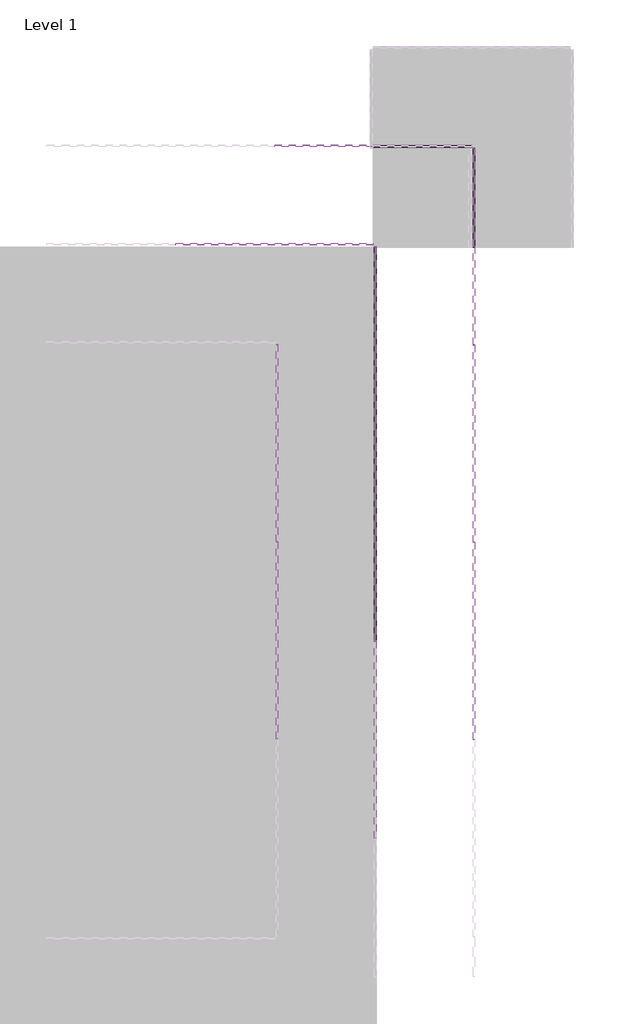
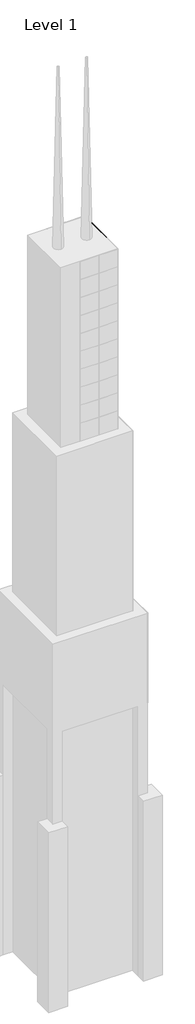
# One storey, part 14 of 15: 138 plates.
"""IFC4 building model written with IfcOpenShell, lengths in millimetres."""

from ifc_helpers import new_model, si_unit, origin, place, context, project, spatial, transform, mapped, element, save
from components import system_panel_glazed_9c75bc08, system_panel_glazed_0a0842ec, system_panel_glazed_aa64d645, system_panel_glazed_b248394d

model = new_model("IFC4")

# Units and contexts
model_context = context("Model", 3, world=origin())
ifc_project = project(units=[si_unit("LENGTHUNIT", "METRE", prefix="MILLI")], contexts=[model_context])

# Site, building, storey
site = spatial("IfcSite", under=ifc_project)
building = spatial("IfcBuilding", under=site)
storey = spatial("IfcBuildingStorey", under=building, Name="Level 1", Elevation=0.0)

# Plates
placement = place(None, origin())
system_panel_glazed_shape = system_panel_glazed_9c75bc08(model_context)
element("IfcPlate", 1, ObjectType="System Panel : Glazed", at=placement, inside=storey, context=model_context, shape_type="MappedRepresentation", body=[
    mapped(system_panel_glazed_shape, transform((51834.2903978, 9113.0904402, 0.0), x_axis=(0.0, 1.0, 0.0), y_axis=(-1.0, 0.0, 0.0), z_axis=(0.0, 0.0, 1.0))),
])
element("IfcPlate", 2, ObjectType="System Panel : Glazed", at=placement, inside=storey, context=model_context, shape_type="MappedRepresentation", body=[
    mapped(system_panel_glazed_shape, transform((51834.2903978, 9113.0904402, 3048.0), x_axis=(0.0, 1.0, 0.0), y_axis=(-1.0, 0.0, 0.0), z_axis=(0.0, 0.0, 1.0))),
])
element("IfcPlate", 3, ObjectType="System Panel : Glazed", at=placement, inside=storey, context=model_context, shape_type="MappedRepresentation", body=[
    mapped(system_panel_glazed_shape, transform((51834.2903978, 9113.0904402, 6096.0), x_axis=(0.0, 1.0, 0.0), y_axis=(-1.0, 0.0, 0.0), z_axis=(0.0, 0.0, 1.0))),
])
element("IfcPlate", 4, ObjectType="System Panel : Glazed", at=placement, inside=storey, context=model_context, shape_type="MappedRepresentation", body=[
    mapped(system_panel_glazed_shape, transform((51834.2903978, 9113.0904402, 9144.0), x_axis=(0.0, 1.0, 0.0), y_axis=(-1.0, 0.0, 0.0), z_axis=(0.0, 0.0, 1.0))),
])
element("IfcPlate", 5, ObjectType="System Panel : Glazed", at=placement, inside=storey, context=model_context, shape_type="MappedRepresentation", body=[
    mapped(system_panel_glazed_shape, transform((51834.2903978, 9113.0904402, 12192.0), x_axis=(0.0, 1.0, 0.0), y_axis=(-1.0, 0.0, 0.0), z_axis=(0.0, 0.0, 1.0))),
])
element("IfcPlate", 6, ObjectType="System Panel : Glazed", at=placement, inside=storey, context=model_context, shape_type="MappedRepresentation", body=[
    mapped(system_panel_glazed_shape, transform((51834.2903978, 9113.0904402, 15240.0), x_axis=(0.0, 1.0, 0.0), y_axis=(-1.0, 0.0, 0.0), z_axis=(0.0, 0.0, 1.0))),
])
element("IfcPlate", 7, ObjectType="System Panel : Glazed", at=placement, inside=storey, context=model_context, shape_type="MappedRepresentation", body=[
    mapped(system_panel_glazed_shape, transform((51834.2903978, 9113.0904402, 18288.0), x_axis=(0.0, 1.0, 0.0), y_axis=(-1.0, 0.0, 0.0), z_axis=(0.0, 0.0, 1.0))),
])
element("IfcPlate", 8, ObjectType="System Panel : Glazed", at=placement, inside=storey, context=model_context, shape_type="MappedRepresentation", body=[
    mapped(system_panel_glazed_shape, transform((51834.2903978, 9113.0904402, 21336.0), x_axis=(0.0, 1.0, 0.0), y_axis=(-1.0, 0.0, 0.0), z_axis=(0.0, 0.0, 1.0))),
])
element("IfcPlate", 9, ObjectType="System Panel : Glazed", at=placement, inside=storey, context=model_context, shape_type="MappedRepresentation", body=[
    mapped(system_panel_glazed_shape, transform((51834.2903978, 9113.0904402, 24384.0), x_axis=(0.0, 1.0, 0.0), y_axis=(-1.0, 0.0, 0.0), z_axis=(0.0, 0.0, 1.0))),
])
element("IfcPlate", 10, ObjectType="System Panel : Glazed", at=placement, inside=storey, context=model_context, shape_type="MappedRepresentation", body=[
    mapped(system_panel_glazed_shape, transform((51834.2903978, 9113.0904402, 27432.0), x_axis=(0.0, 1.0, 0.0), y_axis=(-1.0, 0.0, 0.0), z_axis=(0.0, 0.0, 1.0))),
])
element("IfcPlate", 11, ObjectType="System Panel : Glazed", at=placement, inside=storey, context=model_context, shape_type="MappedRepresentation", body=[
    mapped(system_panel_glazed_shape, transform((51834.2903978, 9113.0904402, 30480.0), x_axis=(0.0, 1.0, 0.0), y_axis=(-1.0, 0.0, 0.0), z_axis=(0.0, 0.0, 1.0))),
])
element("IfcPlate", 12, ObjectType="System Panel : Glazed", at=placement, inside=storey, context=model_context, shape_type="MappedRepresentation", body=[
    mapped(system_panel_glazed_shape, transform((51834.2903978, 9113.0904402, 33528.0), x_axis=(0.0, 1.0, 0.0), y_axis=(-1.0, 0.0, 0.0), z_axis=(0.0, 0.0, 1.0))),
])
element("IfcPlate", 13, ObjectType="System Panel : Glazed", at=placement, inside=storey, context=model_context, shape_type="MappedRepresentation", body=[
    mapped(system_panel_glazed_shape, transform((51834.2903978, 9113.0904402, 36576.0), x_axis=(0.0, 1.0, 0.0), y_axis=(-1.0, 0.0, 0.0), z_axis=(0.0, 0.0, 1.0))),
])
element("IfcPlate", 14, ObjectType="System Panel : Glazed", at=placement, inside=storey, context=model_context, shape_type="MappedRepresentation", body=[
    mapped(system_panel_glazed_shape, transform((51834.2903978, 9113.0904402, 39624.0), x_axis=(0.0, 1.0, 0.0), y_axis=(-1.0, 0.0, 0.0), z_axis=(0.0, 0.0, 1.0))),
])
element("IfcPlate", 15, ObjectType="System Panel : Glazed", at=placement, inside=storey, context=model_context, shape_type="MappedRepresentation", body=[
    mapped(system_panel_glazed_shape, transform((51834.2903978, 9113.0904402, 42672.0), x_axis=(0.0, 1.0, 0.0), y_axis=(-1.0, 0.0, 0.0), z_axis=(0.0, 0.0, 1.0))),
])
element("IfcPlate", 16, ObjectType="System Panel : Glazed", at=placement, inside=storey, context=model_context, shape_type="MappedRepresentation", body=[
    mapped(system_panel_glazed_shape, transform((51072.2903978, 9875.0904402, 0.0), x_axis=(-1.0, 0.0, 0.0), y_axis=(0.0, -1.0, 0.0), z_axis=(0.0, 0.0, 1.0))),
])
element("IfcPlate", 17, ObjectType="System Panel : Glazed", at=placement, inside=storey, context=model_context, shape_type="MappedRepresentation", body=[
    mapped(system_panel_glazed_shape, transform((51072.2903978, 9875.0904402, 3048.0), x_axis=(-1.0, 0.0, 0.0), y_axis=(0.0, -1.0, 0.0), z_axis=(0.0, 0.0, 1.0))),
])
element("IfcPlate", 18, ObjectType="System Panel : Glazed", at=placement, inside=storey, context=model_context, shape_type="MappedRepresentation", body=[
    mapped(system_panel_glazed_shape, transform((51072.2903978, 9875.0904402, 6096.0), x_axis=(-1.0, 0.0, 0.0), y_axis=(0.0, -1.0, 0.0), z_axis=(0.0, 0.0, 1.0))),
])
element("IfcPlate", 19, ObjectType="System Panel : Glazed", at=placement, inside=storey, context=model_context, shape_type="MappedRepresentation", body=[
    mapped(system_panel_glazed_shape, transform((51072.2903978, 9875.0904402, 9144.0), x_axis=(-1.0, 0.0, 0.0), y_axis=(0.0, -1.0, 0.0), z_axis=(0.0, 0.0, 1.0))),
])
element("IfcPlate", 20, ObjectType="System Panel : Glazed", at=placement, inside=storey, context=model_context, shape_type="MappedRepresentation", body=[
    mapped(system_panel_glazed_shape, transform((51072.2903978, 9875.0904402, 12192.0), x_axis=(-1.0, 0.0, 0.0), y_axis=(0.0, -1.0, 0.0), z_axis=(0.0, 0.0, 1.0))),
])
element("IfcPlate", 21, ObjectType="System Panel : Glazed", at=placement, inside=storey, context=model_context, shape_type="MappedRepresentation", body=[
    mapped(system_panel_glazed_shape, transform((51072.2903978, 9875.0904402, 15240.0), x_axis=(-1.0, 0.0, 0.0), y_axis=(0.0, -1.0, 0.0), z_axis=(0.0, 0.0, 1.0))),
])
element("IfcPlate", 22, ObjectType="System Panel : Glazed", at=placement, inside=storey, context=model_context, shape_type="MappedRepresentation", body=[
    mapped(system_panel_glazed_shape, transform((51072.2903978, 9875.0904402, 18288.0), x_axis=(-1.0, 0.0, 0.0), y_axis=(0.0, -1.0, 0.0), z_axis=(0.0, 0.0, 1.0))),
])
element("IfcPlate", 23, ObjectType="System Panel : Glazed", at=placement, inside=storey, context=model_context, shape_type="MappedRepresentation", body=[
    mapped(system_panel_glazed_shape, transform((51072.2903978, 9875.0904402, 21336.0), x_axis=(-1.0, 0.0, 0.0), y_axis=(0.0, -1.0, 0.0), z_axis=(0.0, 0.0, 1.0))),
])
element("IfcPlate", 24, ObjectType="System Panel : Glazed", at=placement, inside=storey, context=model_context, shape_type="MappedRepresentation", body=[
    mapped(system_panel_glazed_shape, transform((51072.2903978, 9875.0904402, 24384.0), x_axis=(-1.0, 0.0, 0.0), y_axis=(0.0, -1.0, 0.0), z_axis=(0.0, 0.0, 1.0))),
])
element("IfcPlate", 25, ObjectType="System Panel : Glazed", at=placement, inside=storey, context=model_context, shape_type="MappedRepresentation", body=[
    mapped(system_panel_glazed_shape, transform((51072.2903978, 9875.0904402, 27432.0), x_axis=(-1.0, 0.0, 0.0), y_axis=(0.0, -1.0, 0.0), z_axis=(0.0, 0.0, 1.0))),
])
element("IfcPlate", 26, ObjectType="System Panel : Glazed", at=placement, inside=storey, context=model_context, shape_type="MappedRepresentation", body=[
    mapped(system_panel_glazed_shape, transform((51072.2903978, 9875.0904402, 30480.0), x_axis=(-1.0, 0.0, 0.0), y_axis=(0.0, -1.0, 0.0), z_axis=(0.0, 0.0, 1.0))),
])
element("IfcPlate", 27, ObjectType="System Panel : Glazed", at=placement, inside=storey, context=model_context, shape_type="MappedRepresentation", body=[
    mapped(system_panel_glazed_shape, transform((51072.2903978, 9875.0904402, 33528.0), x_axis=(-1.0, 0.0, 0.0), y_axis=(0.0, -1.0, 0.0), z_axis=(0.0, 0.0, 1.0))),
])
system_panel_glazed_2_shape = system_panel_glazed_0a0842ec(model_context)
element("IfcPlate", 28, ObjectType="System Panel : Glazed", at=placement, inside=storey, context=model_context, shape_type="MappedRepresentation", body=[
    mapped(system_panel_glazed_2_shape, transform((51834.2903978, 8351.0904402, 45720.0), x_axis=(0.0, 1.0, 0.0), y_axis=(-1.0, 0.0, 0.0), z_axis=(0.0, 0.0, 1.0))),
])
element("IfcPlate", 29, ObjectType="System Panel : Glazed", at=placement, inside=storey, context=model_context, shape_type="MappedRepresentation", body=[
    mapped(system_panel_glazed_2_shape, transform((50310.2903978, 9875.0904402, 45720.0), x_axis=(-1.0, 0.0, 0.0), y_axis=(0.0, -1.0, 0.0), z_axis=(0.0, 0.0, 1.0))),
])
element("IfcPlate", 30, ObjectType="System Panel : Glazed", at=placement, inside=storey, context=model_context, shape_type="MappedRepresentation", body=[
    mapped(system_panel_glazed_2_shape, transform((50310.2903978, 9875.0904402, 45720.0), x_axis=(-1.0, 0.0, 0.0), y_axis=(0.0, -1.0, 0.0), z_axis=(0.0, 0.0, 1.0))),
])
element("IfcPlate", 31, ObjectType="System Panel : Glazed", at=placement, inside=storey, context=model_context, shape_type="MappedRepresentation", body=[
    mapped(system_panel_glazed_2_shape, transform((50310.2903978, 9875.0904402, 45720.0), x_axis=(-1.0, 0.0, 0.0), y_axis=(0.0, -1.0, 0.0), z_axis=(0.0, 0.0, 1.0))),
])
system_panel_glazed_3_shape = system_panel_glazed_aa64d645(model_context)
element("IfcPlate", 32, ObjectType="System Panel : Glazed", at=placement, inside=storey, context=model_context, shape_type="MappedRepresentation", body=[
    mapped(system_panel_glazed_3_shape, transform((51834.2903978, 2255.0904402, 45720.0), x_axis=(0.0, 1.0, 0.0), y_axis=(-1.0, 0.0, 0.0), z_axis=(0.0, 0.0, 1.0))),
])
element("IfcPlate", 33, ObjectType="System Panel : Glazed", at=placement, inside=storey, context=model_context, shape_type="MappedRepresentation", body=[
    mapped(system_panel_glazed_3_shape, transform((51834.2903978, 5303.0904402, 45720.0), x_axis=(0.0, 1.0, 0.0), y_axis=(-1.0, 0.0, 0.0), z_axis=(0.0, 0.0, 1.0))),
])
element("IfcPlate", 34, ObjectType="System Panel : Glazed", at=placement, inside=storey, context=model_context, shape_type="MappedRepresentation", body=[
    mapped(system_panel_glazed_3_shape, transform((51834.2903978, 2255.0904402, 48768.0), x_axis=(0.0, 1.0, 0.0), y_axis=(-1.0, 0.0, 0.0), z_axis=(0.0, 0.0, 1.0))),
])
element("IfcPlate", 35, ObjectType="System Panel : Glazed", at=placement, inside=storey, context=model_context, shape_type="MappedRepresentation", body=[
    mapped(system_panel_glazed_3_shape, transform((51834.2903978, 5303.0904402, 48768.0), x_axis=(0.0, 1.0, 0.0), y_axis=(-1.0, 0.0, 0.0), z_axis=(0.0, 0.0, 1.0))),
])
element("IfcPlate", 36, ObjectType="System Panel : Glazed", at=placement, inside=storey, context=model_context, shape_type="MappedRepresentation", body=[
    mapped(system_panel_glazed_3_shape, transform((51834.2903978, 8351.0904402, 48768.0), x_axis=(0.0, 1.0, 0.0), y_axis=(-1.0, 0.0, 0.0), z_axis=(0.0, 0.0, 1.0))),
])
element("IfcPlate", 37, ObjectType="System Panel : Glazed", at=placement, inside=storey, context=model_context, shape_type="MappedRepresentation", body=[
    mapped(system_panel_glazed_3_shape, transform((51834.2903978, 2255.0904402, 51816.0), x_axis=(0.0, 1.0, 0.0), y_axis=(-1.0, 0.0, 0.0), z_axis=(0.0, 0.0, 1.0))),
])
element("IfcPlate", 38, ObjectType="System Panel : Glazed", at=placement, inside=storey, context=model_context, shape_type="MappedRepresentation", body=[
    mapped(system_panel_glazed_3_shape, transform((51834.2903978, 5303.0904402, 51816.0), x_axis=(0.0, 1.0, 0.0), y_axis=(-1.0, 0.0, 0.0), z_axis=(0.0, 0.0, 1.0))),
])
element("IfcPlate", 39, ObjectType="System Panel : Glazed", at=placement, inside=storey, context=model_context, shape_type="MappedRepresentation", body=[
    mapped(system_panel_glazed_3_shape, transform((51834.2903978, 8351.0904402, 51816.0), x_axis=(0.0, 1.0, 0.0), y_axis=(-1.0, 0.0, 0.0), z_axis=(0.0, 0.0, 1.0))),
])
element("IfcPlate", 40, ObjectType="System Panel : Glazed", at=placement, inside=storey, context=model_context, shape_type="MappedRepresentation", body=[
    mapped(system_panel_glazed_3_shape, transform((51834.2903978, 2255.0904402, 54864.0), x_axis=(0.0, 1.0, 0.0), y_axis=(-1.0, 0.0, 0.0), z_axis=(0.0, 0.0, 1.0))),
])
element("IfcPlate", 41, ObjectType="System Panel : Glazed", at=placement, inside=storey, context=model_context, shape_type="MappedRepresentation", body=[
    mapped(system_panel_glazed_3_shape, transform((51834.2903978, 5303.0904402, 54864.0), x_axis=(0.0, 1.0, 0.0), y_axis=(-1.0, 0.0, 0.0), z_axis=(0.0, 0.0, 1.0))),
])
element("IfcPlate", 42, ObjectType="System Panel : Glazed", at=placement, inside=storey, context=model_context, shape_type="MappedRepresentation", body=[
    mapped(system_panel_glazed_3_shape, transform((51834.2903978, 8351.0904402, 54864.0), x_axis=(0.0, 1.0, 0.0), y_axis=(-1.0, 0.0, 0.0), z_axis=(0.0, 0.0, 1.0))),
])
element("IfcPlate", 43, ObjectType="System Panel : Glazed", at=placement, inside=storey, context=model_context, shape_type="MappedRepresentation", body=[
    mapped(system_panel_glazed_3_shape, transform((51834.2903978, 2255.0904402, 57912.0), x_axis=(0.0, 1.0, 0.0), y_axis=(-1.0, 0.0, 0.0), z_axis=(0.0, 0.0, 1.0))),
])
element("IfcPlate", 44, ObjectType="System Panel : Glazed", at=placement, inside=storey, context=model_context, shape_type="MappedRepresentation", body=[
    mapped(system_panel_glazed_3_shape, transform((51834.2903978, 5303.0904402, 57912.0), x_axis=(0.0, 1.0, 0.0), y_axis=(-1.0, 0.0, 0.0), z_axis=(0.0, 0.0, 1.0))),
])
element("IfcPlate", 45, ObjectType="System Panel : Glazed", at=placement, inside=storey, context=model_context, shape_type="MappedRepresentation", body=[
    mapped(system_panel_glazed_3_shape, transform((51834.2903978, 8351.0904402, 57912.0), x_axis=(0.0, 1.0, 0.0), y_axis=(-1.0, 0.0, 0.0), z_axis=(0.0, 0.0, 1.0))),
])
element("IfcPlate", 46, ObjectType="System Panel : Glazed", at=placement, inside=storey, context=model_context, shape_type="MappedRepresentation", body=[
    mapped(system_panel_glazed_3_shape, transform((50310.2903978, 9875.0904402, 48768.0), x_axis=(-1.0, 0.0, 0.0), y_axis=(0.0, -1.0, 0.0), z_axis=(0.0, 0.0, 1.0))),
])
element("IfcPlate", 47, ObjectType="System Panel : Glazed", at=placement, inside=storey, context=model_context, shape_type="MappedRepresentation", body=[
    mapped(system_panel_glazed_3_shape, transform((50310.2903978, 9875.0904402, 51816.0), x_axis=(-1.0, 0.0, 0.0), y_axis=(0.0, -1.0, 0.0), z_axis=(0.0, 0.0, 1.0))),
])
element("IfcPlate", 48, ObjectType="System Panel : Glazed", at=placement, inside=storey, context=model_context, shape_type="MappedRepresentation", body=[
    mapped(system_panel_glazed_3_shape, transform((50310.2903978, 9875.0904402, 54864.0), x_axis=(-1.0, 0.0, 0.0), y_axis=(0.0, -1.0, 0.0), z_axis=(0.0, 0.0, 1.0))),
])
element("IfcPlate", 49, ObjectType="System Panel : Glazed", at=placement, inside=storey, context=model_context, shape_type="MappedRepresentation", body=[
    mapped(system_panel_glazed_3_shape, transform((50310.2903978, 9875.0904402, 57912.0), x_axis=(-1.0, 0.0, 0.0), y_axis=(0.0, -1.0, 0.0), z_axis=(0.0, 0.0, 1.0))),
])
element("IfcPlate", 50, ObjectType="System Panel : Glazed", at=placement, inside=storey, context=model_context, shape_type="MappedRepresentation", body=[
    mapped(system_panel_glazed_3_shape, transform((50310.2903978, 3779.0904402, 60960.0), x_axis=(0.0, 1.0, 0.0), y_axis=(-1.0, 0.0, 0.0), z_axis=(0.0, 0.0, 1.0))),
])
element("IfcPlate", 51, ObjectType="System Panel : Glazed", at=placement, inside=storey, context=model_context, shape_type="MappedRepresentation", body=[
    mapped(system_panel_glazed_3_shape, transform((50310.2903978, 6827.0904402, 60960.0), x_axis=(0.0, 1.0, 0.0), y_axis=(-1.0, 0.0, 0.0), z_axis=(0.0, 0.0, 1.0))),
])
element("IfcPlate", 52, ObjectType="System Panel : Glazed", at=placement, inside=storey, context=model_context, shape_type="MappedRepresentation", body=[
    mapped(system_panel_glazed_3_shape, transform((50310.2903978, 3779.0904402, 64008.0), x_axis=(0.0, 1.0, 0.0), y_axis=(-1.0, 0.0, 0.0), z_axis=(0.0, 0.0, 1.0))),
])
element("IfcPlate", 53, ObjectType="System Panel : Glazed", at=placement, inside=storey, context=model_context, shape_type="MappedRepresentation", body=[
    mapped(system_panel_glazed_3_shape, transform((50310.2903978, 6827.0904402, 64008.0), x_axis=(0.0, 1.0, 0.0), y_axis=(-1.0, 0.0, 0.0), z_axis=(0.0, 0.0, 1.0))),
])
element("IfcPlate", 54, ObjectType="System Panel : Glazed", at=placement, inside=storey, context=model_context, shape_type="MappedRepresentation", body=[
    mapped(system_panel_glazed_3_shape, transform((50310.2903978, 3779.0904402, 67056.0), x_axis=(0.0, 1.0, 0.0), y_axis=(-1.0, 0.0, 0.0), z_axis=(0.0, 0.0, 1.0))),
])
element("IfcPlate", 55, ObjectType="System Panel : Glazed", at=placement, inside=storey, context=model_context, shape_type="MappedRepresentation", body=[
    mapped(system_panel_glazed_3_shape, transform((50310.2903978, 6827.0904402, 67056.0), x_axis=(0.0, 1.0, 0.0), y_axis=(-1.0, 0.0, 0.0), z_axis=(0.0, 0.0, 1.0))),
])
element("IfcPlate", 56, ObjectType="System Panel : Glazed", at=placement, inside=storey, context=model_context, shape_type="MappedRepresentation", body=[
    mapped(system_panel_glazed_3_shape, transform((50310.2903978, 3779.0904402, 70104.0), x_axis=(0.0, 1.0, 0.0), y_axis=(-1.0, 0.0, 0.0), z_axis=(0.0, 0.0, 1.0))),
])
element("IfcPlate", 57, ObjectType="System Panel : Glazed", at=placement, inside=storey, context=model_context, shape_type="MappedRepresentation", body=[
    mapped(system_panel_glazed_3_shape, transform((50310.2903978, 6827.0904402, 70104.0), x_axis=(0.0, 1.0, 0.0), y_axis=(-1.0, 0.0, 0.0), z_axis=(0.0, 0.0, 1.0))),
])
element("IfcPlate", 58, ObjectType="System Panel : Glazed", at=placement, inside=storey, context=model_context, shape_type="MappedRepresentation", body=[
    mapped(system_panel_glazed_3_shape, transform((50310.2903978, 3779.0904402, 73152.0), x_axis=(0.0, 1.0, 0.0), y_axis=(-1.0, 0.0, 0.0), z_axis=(0.0, 0.0, 1.0))),
])
element("IfcPlate", 59, ObjectType="System Panel : Glazed", at=placement, inside=storey, context=model_context, shape_type="MappedRepresentation", body=[
    mapped(system_panel_glazed_3_shape, transform((50310.2903978, 6827.0904402, 73152.0), x_axis=(0.0, 1.0, 0.0), y_axis=(-1.0, 0.0, 0.0), z_axis=(0.0, 0.0, 1.0))),
])
element("IfcPlate", 60, ObjectType="System Panel : Glazed", at=placement, inside=storey, context=model_context, shape_type="MappedRepresentation", body=[
    mapped(system_panel_glazed_3_shape, transform((50310.2903978, 3779.0904402, 76200.0), x_axis=(0.0, 1.0, 0.0), y_axis=(-1.0, 0.0, 0.0), z_axis=(0.0, 0.0, 1.0))),
])
element("IfcPlate", 61, ObjectType="System Panel : Glazed", at=placement, inside=storey, context=model_context, shape_type="MappedRepresentation", body=[
    mapped(system_panel_glazed_3_shape, transform((50310.2903978, 6827.0904402, 76200.0), x_axis=(0.0, 1.0, 0.0), y_axis=(-1.0, 0.0, 0.0), z_axis=(0.0, 0.0, 1.0))),
])
element("IfcPlate", 62, ObjectType="System Panel : Glazed", at=placement, inside=storey, context=model_context, shape_type="MappedRepresentation", body=[
    mapped(system_panel_glazed_3_shape, transform((50310.2903978, 3779.0904402, 79248.0), x_axis=(0.0, 1.0, 0.0), y_axis=(-1.0, 0.0, 0.0), z_axis=(0.0, 0.0, 1.0))),
])
element("IfcPlate", 63, ObjectType="System Panel : Glazed", at=placement, inside=storey, context=model_context, shape_type="MappedRepresentation", body=[
    mapped(system_panel_glazed_3_shape, transform((50310.2903978, 6827.0904402, 79248.0), x_axis=(0.0, 1.0, 0.0), y_axis=(-1.0, 0.0, 0.0), z_axis=(0.0, 0.0, 1.0))),
])
element("IfcPlate", 64, ObjectType="System Panel : Glazed", at=placement, inside=storey, context=model_context, shape_type="MappedRepresentation", body=[
    mapped(system_panel_glazed_3_shape, transform((50310.2903978, 3779.0904402, 82296.0), x_axis=(0.0, 1.0, 0.0), y_axis=(-1.0, 0.0, 0.0), z_axis=(0.0, 0.0, 1.0))),
])
element("IfcPlate", 65, ObjectType="System Panel : Glazed", at=placement, inside=storey, context=model_context, shape_type="MappedRepresentation", body=[
    mapped(system_panel_glazed_3_shape, transform((50310.2903978, 6827.0904402, 82296.0), x_axis=(0.0, 1.0, 0.0), y_axis=(-1.0, 0.0, 0.0), z_axis=(0.0, 0.0, 1.0))),
])
element("IfcPlate", 66, ObjectType="System Panel : Glazed", at=placement, inside=storey, context=model_context, shape_type="MappedRepresentation", body=[
    mapped(system_panel_glazed_3_shape, transform((50310.2903978, 3779.0904402, 85344.0), x_axis=(0.0, 1.0, 0.0), y_axis=(-1.0, 0.0, 0.0), z_axis=(0.0, 0.0, 1.0))),
])
element("IfcPlate", 67, ObjectType="System Panel : Glazed", at=placement, inside=storey, context=model_context, shape_type="MappedRepresentation", body=[
    mapped(system_panel_glazed_3_shape, transform((50310.2903978, 6827.0904402, 85344.0), x_axis=(0.0, 1.0, 0.0), y_axis=(-1.0, 0.0, 0.0), z_axis=(0.0, 0.0, 1.0))),
])
element("IfcPlate", 68, ObjectType="System Panel : Glazed", at=placement, inside=storey, context=model_context, shape_type="MappedRepresentation", body=[
    mapped(system_panel_glazed_3_shape, transform((50310.2903978, 3779.0904402, 88392.0), x_axis=(0.0, 1.0, 0.0), y_axis=(-1.0, 0.0, 0.0), z_axis=(0.0, 0.0, 1.0))),
])
element("IfcPlate", 69, ObjectType="System Panel : Glazed", at=placement, inside=storey, context=model_context, shape_type="MappedRepresentation", body=[
    mapped(system_panel_glazed_3_shape, transform((50310.2903978, 6827.0904402, 88392.0), x_axis=(0.0, 1.0, 0.0), y_axis=(-1.0, 0.0, 0.0), z_axis=(0.0, 0.0, 1.0))),
])
element("IfcPlate", 70, ObjectType="System Panel : Glazed", at=placement, inside=storey, context=model_context, shape_type="MappedRepresentation", body=[
    mapped(system_panel_glazed_3_shape, transform((48786.2903978, 8351.0904402, 60960.0), x_axis=(-1.0, 0.0, 0.0), y_axis=(0.0, -1.0, 0.0), z_axis=(0.0, 0.0, 1.0))),
])
element("IfcPlate", 71, ObjectType="System Panel : Glazed", at=placement, inside=storey, context=model_context, shape_type="MappedRepresentation", body=[
    mapped(system_panel_glazed_3_shape, transform((48786.2903978, 8351.0904402, 64008.0), x_axis=(-1.0, 0.0, 0.0), y_axis=(0.0, -1.0, 0.0), z_axis=(0.0, 0.0, 1.0))),
])
element("IfcPlate", 72, ObjectType="System Panel : Glazed", at=placement, inside=storey, context=model_context, shape_type="MappedRepresentation", body=[
    mapped(system_panel_glazed_3_shape, transform((48786.2903978, 8351.0904402, 67056.0), x_axis=(-1.0, 0.0, 0.0), y_axis=(0.0, -1.0, 0.0), z_axis=(0.0, 0.0, 1.0))),
])
element("IfcPlate", 73, ObjectType="System Panel : Glazed", at=placement, inside=storey, context=model_context, shape_type="MappedRepresentation", body=[
    mapped(system_panel_glazed_3_shape, transform((48786.2903978, 8351.0904402, 70104.0), x_axis=(-1.0, 0.0, 0.0), y_axis=(0.0, -1.0, 0.0), z_axis=(0.0, 0.0, 1.0))),
])
element("IfcPlate", 74, ObjectType="System Panel : Glazed", at=placement, inside=storey, context=model_context, shape_type="MappedRepresentation", body=[
    mapped(system_panel_glazed_3_shape, transform((48786.2903978, 8351.0904402, 73152.0), x_axis=(-1.0, 0.0, 0.0), y_axis=(0.0, -1.0, 0.0), z_axis=(0.0, 0.0, 1.0))),
])
element("IfcPlate", 75, ObjectType="System Panel : Glazed", at=placement, inside=storey, context=model_context, shape_type="MappedRepresentation", body=[
    mapped(system_panel_glazed_3_shape, transform((48786.2903978, 8351.0904402, 76200.0), x_axis=(-1.0, 0.0, 0.0), y_axis=(0.0, -1.0, 0.0), z_axis=(0.0, 0.0, 1.0))),
])
element("IfcPlate", 76, ObjectType="System Panel : Glazed", at=placement, inside=storey, context=model_context, shape_type="MappedRepresentation", body=[
    mapped(system_panel_glazed_3_shape, transform((48786.2903978, 8351.0904402, 79248.0), x_axis=(-1.0, 0.0, 0.0), y_axis=(0.0, -1.0, 0.0), z_axis=(0.0, 0.0, 1.0))),
])
element("IfcPlate", 77, ObjectType="System Panel : Glazed", at=placement, inside=storey, context=model_context, shape_type="MappedRepresentation", body=[
    mapped(system_panel_glazed_3_shape, transform((48786.2903978, 8351.0904402, 82296.0), x_axis=(-1.0, 0.0, 0.0), y_axis=(0.0, -1.0, 0.0), z_axis=(0.0, 0.0, 1.0))),
])
element("IfcPlate", 78, ObjectType="System Panel : Glazed", at=placement, inside=storey, context=model_context, shape_type="MappedRepresentation", body=[
    mapped(system_panel_glazed_3_shape, transform((48786.2903978, 8351.0904402, 85344.0), x_axis=(-1.0, 0.0, 0.0), y_axis=(0.0, -1.0, 0.0), z_axis=(0.0, 0.0, 1.0))),
])
element("IfcPlate", 79, ObjectType="System Panel : Glazed", at=placement, inside=storey, context=model_context, shape_type="MappedRepresentation", body=[
    mapped(system_panel_glazed_3_shape, transform((48786.2903978, 8351.0904402, 88392.0), x_axis=(-1.0, 0.0, 0.0), y_axis=(0.0, -1.0, 0.0), z_axis=(0.0, 0.0, 1.0))),
])
element("IfcPlate", 80, ObjectType="System Panel : Glazed", at=placement, inside=storey, context=model_context, shape_type="MappedRepresentation", body=[
    mapped(system_panel_glazed_3_shape, transform((48791.8576677, 2255.0904402, 91440.0), x_axis=(0.0, 1.0, 0.0), y_axis=(-1.0, 0.0, 0.0), z_axis=(0.0, 0.0, 1.0))),
])
element("IfcPlate", 81, ObjectType="System Panel : Glazed", at=placement, inside=storey, context=model_context, shape_type="MappedRepresentation", body=[
    mapped(system_panel_glazed_3_shape, transform((48791.8576677, 5303.0904402, 91440.0), x_axis=(0.0, 1.0, 0.0), y_axis=(-1.0, 0.0, 0.0), z_axis=(0.0, 0.0, 1.0))),
])
element("IfcPlate", 82, ObjectType="System Panel : Glazed", at=placement, inside=storey, context=model_context, shape_type="MappedRepresentation", body=[
    mapped(system_panel_glazed_3_shape, transform((48791.8576677, 2255.0904402, 94488.0), x_axis=(0.0, 1.0, 0.0), y_axis=(-1.0, 0.0, 0.0), z_axis=(0.0, 0.0, 1.0))),
])
element("IfcPlate", 83, ObjectType="System Panel : Glazed", at=placement, inside=storey, context=model_context, shape_type="MappedRepresentation", body=[
    mapped(system_panel_glazed_3_shape, transform((48791.8576677, 5303.0904402, 94488.0), x_axis=(0.0, 1.0, 0.0), y_axis=(-1.0, 0.0, 0.0), z_axis=(0.0, 0.0, 1.0))),
])
element("IfcPlate", 84, ObjectType="System Panel : Glazed", at=placement, inside=storey, context=model_context, shape_type="MappedRepresentation", body=[
    mapped(system_panel_glazed_3_shape, transform((48791.8576677, 2255.0904402, 97536.0), x_axis=(0.0, 1.0, 0.0), y_axis=(-1.0, 0.0, 0.0), z_axis=(0.0, 0.0, 1.0))),
])
element("IfcPlate", 85, ObjectType="System Panel : Glazed", at=placement, inside=storey, context=model_context, shape_type="MappedRepresentation", body=[
    mapped(system_panel_glazed_3_shape, transform((48791.8576677, 5303.0904402, 97536.0), x_axis=(0.0, 1.0, 0.0), y_axis=(-1.0, 0.0, 0.0), z_axis=(0.0, 0.0, 1.0))),
])
element("IfcPlate", 86, ObjectType="System Panel : Glazed", at=placement, inside=storey, context=model_context, shape_type="MappedRepresentation", body=[
    mapped(system_panel_glazed_3_shape, transform((48791.8576677, 2255.0904402, 100584.0), x_axis=(0.0, 1.0, 0.0), y_axis=(-1.0, 0.0, 0.0), z_axis=(0.0, 0.0, 1.0))),
])
element("IfcPlate", 87, ObjectType="System Panel : Glazed", at=placement, inside=storey, context=model_context, shape_type="MappedRepresentation", body=[
    mapped(system_panel_glazed_3_shape, transform((48791.8576677, 5303.0904402, 100584.0), x_axis=(0.0, 1.0, 0.0), y_axis=(-1.0, 0.0, 0.0), z_axis=(0.0, 0.0, 1.0))),
])
element("IfcPlate", 88, ObjectType="System Panel : Glazed", at=placement, inside=storey, context=model_context, shape_type="MappedRepresentation", body=[
    mapped(system_panel_glazed_3_shape, transform((48791.8576677, 2255.0904402, 103632.0), x_axis=(0.0, 1.0, 0.0), y_axis=(-1.0, 0.0, 0.0), z_axis=(0.0, 0.0, 1.0))),
])
element("IfcPlate", 89, ObjectType="System Panel : Glazed", at=placement, inside=storey, context=model_context, shape_type="MappedRepresentation", body=[
    mapped(system_panel_glazed_3_shape, transform((48791.8576677, 5303.0904402, 103632.0), x_axis=(0.0, 1.0, 0.0), y_axis=(-1.0, 0.0, 0.0), z_axis=(0.0, 0.0, 1.0))),
])
element("IfcPlate", 90, ObjectType="System Panel : Glazed", at=placement, inside=storey, context=model_context, shape_type="MappedRepresentation", body=[
    mapped(system_panel_glazed_3_shape, transform((48791.8576677, 2255.0904402, 106680.0), x_axis=(0.0, 1.0, 0.0), y_axis=(-1.0, 0.0, 0.0), z_axis=(0.0, 0.0, 1.0))),
])
element("IfcPlate", 91, ObjectType="System Panel : Glazed", at=placement, inside=storey, context=model_context, shape_type="MappedRepresentation", body=[
    mapped(system_panel_glazed_3_shape, transform((48791.8576677, 5303.0904402, 106680.0), x_axis=(0.0, 1.0, 0.0), y_axis=(-1.0, 0.0, 0.0), z_axis=(0.0, 0.0, 1.0))),
])
element("IfcPlate", 92, ObjectType="System Panel : Glazed", at=placement, inside=storey, context=model_context, shape_type="MappedRepresentation", body=[
    mapped(system_panel_glazed_3_shape, transform((48791.8576677, 2255.0904402, 109728.0), x_axis=(0.0, 1.0, 0.0), y_axis=(-1.0, 0.0, 0.0), z_axis=(0.0, 0.0, 1.0))),
])
element("IfcPlate", 93, ObjectType="System Panel : Glazed", at=placement, inside=storey, context=model_context, shape_type="MappedRepresentation", body=[
    mapped(system_panel_glazed_3_shape, transform((48791.8576677, 5303.0904402, 109728.0), x_axis=(0.0, 1.0, 0.0), y_axis=(-1.0, 0.0, 0.0), z_axis=(0.0, 0.0, 1.0))),
])
element("IfcPlate", 94, ObjectType="System Panel : Glazed", at=placement, inside=storey, context=model_context, shape_type="MappedRepresentation", body=[
    mapped(system_panel_glazed_3_shape, transform((48791.8576677, 2255.0904402, 112776.0), x_axis=(0.0, 1.0, 0.0), y_axis=(-1.0, 0.0, 0.0), z_axis=(0.0, 0.0, 1.0))),
])
element("IfcPlate", 95, ObjectType="System Panel : Glazed", at=placement, inside=storey, context=model_context, shape_type="MappedRepresentation", body=[
    mapped(system_panel_glazed_3_shape, transform((48791.8576677, 5303.0904402, 112776.0), x_axis=(0.0, 1.0, 0.0), y_axis=(-1.0, 0.0, 0.0), z_axis=(0.0, 0.0, 1.0))),
])
element("IfcPlate", 96, ObjectType="System Panel : Glazed", at=placement, inside=storey, context=model_context, shape_type="MappedRepresentation", body=[
    mapped(system_panel_glazed_3_shape, transform((48791.8576677, 2255.0904402, 115824.0), x_axis=(0.0, 1.0, 0.0), y_axis=(-1.0, 0.0, 0.0), z_axis=(0.0, 0.0, 1.0))),
])
element("IfcPlate", 97, ObjectType="System Panel : Glazed", at=placement, inside=storey, context=model_context, shape_type="MappedRepresentation", body=[
    mapped(system_panel_glazed_3_shape, transform((48791.8576677, 5303.0904402, 115824.0), x_axis=(0.0, 1.0, 0.0), y_axis=(-1.0, 0.0, 0.0), z_axis=(0.0, 0.0, 1.0))),
])
element("IfcPlate", 98, ObjectType="System Panel : Glazed", at=placement, inside=storey, context=model_context, shape_type="MappedRepresentation", body=[
    mapped(system_panel_glazed_3_shape, transform((48791.8576677, 2255.0904402, 118872.0), x_axis=(0.0, 1.0, 0.0), y_axis=(-1.0, 0.0, 0.0), z_axis=(0.0, 0.0, 1.0))),
])
element("IfcPlate", 99, ObjectType="System Panel : Glazed", at=placement, inside=storey, context=model_context, shape_type="MappedRepresentation", body=[
    mapped(system_panel_glazed_3_shape, transform((48791.8576677, 5303.0904402, 118872.0), x_axis=(0.0, 1.0, 0.0), y_axis=(-1.0, 0.0, 0.0), z_axis=(0.0, 0.0, 1.0))),
])
element("IfcPlate", 100, ObjectType="System Panel : Glazed", at=placement, inside=storey, context=model_context, shape_type="MappedRepresentation", body=[
    mapped(system_panel_glazed_3_shape, transform((50310.2903978, 9875.0904402, 48768.0), x_axis=(-1.0, 0.0, 0.0), y_axis=(0.0, -1.0, 0.0), z_axis=(0.0, 0.0, 1.0))),
])
element("IfcPlate", 101, ObjectType="System Panel : Glazed", at=placement, inside=storey, context=model_context, shape_type="MappedRepresentation", body=[
    mapped(system_panel_glazed_3_shape, transform((50310.2903978, 9875.0904402, 51816.0), x_axis=(-1.0, 0.0, 0.0), y_axis=(0.0, -1.0, 0.0), z_axis=(0.0, 0.0, 1.0))),
])
element("IfcPlate", 102, ObjectType="System Panel : Glazed", at=placement, inside=storey, context=model_context, shape_type="MappedRepresentation", body=[
    mapped(system_panel_glazed_3_shape, transform((50310.2903978, 9875.0904402, 54864.0), x_axis=(-1.0, 0.0, 0.0), y_axis=(0.0, -1.0, 0.0), z_axis=(0.0, 0.0, 1.0))),
])
element("IfcPlate", 103, ObjectType="System Panel : Glazed", at=placement, inside=storey, context=model_context, shape_type="MappedRepresentation", body=[
    mapped(system_panel_glazed_3_shape, transform((50310.2903978, 9875.0904402, 57912.0), x_axis=(-1.0, 0.0, 0.0), y_axis=(0.0, -1.0, 0.0), z_axis=(0.0, 0.0, 1.0))),
])
element("IfcPlate", 104, ObjectType="System Panel : Glazed", at=placement, inside=storey, context=model_context, shape_type="MappedRepresentation", body=[
    mapped(system_panel_glazed_3_shape, transform((50310.2903978, 9875.0904402, 48768.0), x_axis=(-1.0, 0.0, 0.0), y_axis=(0.0, -1.0, 0.0), z_axis=(0.0, 0.0, 1.0))),
])
element("IfcPlate", 105, ObjectType="System Panel : Glazed", at=placement, inside=storey, context=model_context, shape_type="MappedRepresentation", body=[
    mapped(system_panel_glazed_3_shape, transform((50310.2903978, 9875.0904402, 51816.0), x_axis=(-1.0, 0.0, 0.0), y_axis=(0.0, -1.0, 0.0), z_axis=(0.0, 0.0, 1.0))),
])
element("IfcPlate", 106, ObjectType="System Panel : Glazed", at=placement, inside=storey, context=model_context, shape_type="MappedRepresentation", body=[
    mapped(system_panel_glazed_3_shape, transform((50310.2903978, 9875.0904402, 54864.0), x_axis=(-1.0, 0.0, 0.0), y_axis=(0.0, -1.0, 0.0), z_axis=(0.0, 0.0, 1.0))),
])
element("IfcPlate", 107, ObjectType="System Panel : Glazed", at=placement, inside=storey, context=model_context, shape_type="MappedRepresentation", body=[
    mapped(system_panel_glazed_3_shape, transform((50310.2903978, 9875.0904402, 57912.0), x_axis=(-1.0, 0.0, 0.0), y_axis=(0.0, -1.0, 0.0), z_axis=(0.0, 0.0, 1.0))),
])
system_panel_glazed_4_shape = system_panel_glazed_b248394d(model_context)
element("IfcPlate", 108, ObjectType="System Panel : Glazed", at=placement, inside=storey, context=model_context, shape_type="MappedRepresentation", body=[
    mapped(system_panel_glazed_4_shape, transform((50310.2903978, 6827.0904402, 0.0), x_axis=(0.0, -1.0, 0.0), y_axis=(1.0, 0.0, 0.0), z_axis=(0.0, 0.0, 1.0))),
])
element("IfcPlate", 109, ObjectType="System Panel : Glazed", at=placement, inside=storey, context=model_context, shape_type="MappedRepresentation", body=[
    mapped(system_panel_glazed_4_shape, transform((50310.2903978, 3779.0904402, 0.0), x_axis=(0.0, -1.0, 0.0), y_axis=(1.0, 0.0, 0.0), z_axis=(0.0, 0.0, 1.0))),
])
element("IfcPlate", 110, ObjectType="System Panel : Glazed", at=placement, inside=storey, context=model_context, shape_type="MappedRepresentation", body=[
    mapped(system_panel_glazed_4_shape, transform((50310.2903978, 6827.0904402, 3048.0), x_axis=(0.0, -1.0, 0.0), y_axis=(1.0, 0.0, 0.0), z_axis=(0.0, 0.0, 1.0))),
])
element("IfcPlate", 111, ObjectType="System Panel : Glazed", at=placement, inside=storey, context=model_context, shape_type="MappedRepresentation", body=[
    mapped(system_panel_glazed_4_shape, transform((50310.2903978, 3779.0904402, 3048.0), x_axis=(0.0, -1.0, 0.0), y_axis=(1.0, 0.0, 0.0), z_axis=(0.0, 0.0, 1.0))),
])
element("IfcPlate", 112, ObjectType="System Panel : Glazed", at=placement, inside=storey, context=model_context, shape_type="MappedRepresentation", body=[
    mapped(system_panel_glazed_4_shape, transform((50310.2903978, 6827.0904402, 6096.0), x_axis=(0.0, -1.0, 0.0), y_axis=(1.0, 0.0, 0.0), z_axis=(0.0, 0.0, 1.0))),
])
element("IfcPlate", 113, ObjectType="System Panel : Glazed", at=placement, inside=storey, context=model_context, shape_type="MappedRepresentation", body=[
    mapped(system_panel_glazed_4_shape, transform((50310.2903978, 3779.0904402, 6096.0), x_axis=(0.0, -1.0, 0.0), y_axis=(1.0, 0.0, 0.0), z_axis=(0.0, 0.0, 1.0))),
])
element("IfcPlate", 114, ObjectType="System Panel : Glazed", at=placement, inside=storey, context=model_context, shape_type="MappedRepresentation", body=[
    mapped(system_panel_glazed_4_shape, transform((50310.2903978, 6827.0904402, 9144.0), x_axis=(0.0, -1.0, 0.0), y_axis=(1.0, 0.0, 0.0), z_axis=(0.0, 0.0, 1.0))),
])
element("IfcPlate", 115, ObjectType="System Panel : Glazed", at=placement, inside=storey, context=model_context, shape_type="MappedRepresentation", body=[
    mapped(system_panel_glazed_4_shape, transform((50310.2903978, 3779.0904402, 9144.0), x_axis=(0.0, -1.0, 0.0), y_axis=(1.0, 0.0, 0.0), z_axis=(0.0, 0.0, 1.0))),
])
element("IfcPlate", 116, ObjectType="System Panel : Glazed", at=placement, inside=storey, context=model_context, shape_type="MappedRepresentation", body=[
    mapped(system_panel_glazed_4_shape, transform((50310.2903978, 6827.0904402, 12192.0), x_axis=(0.0, -1.0, 0.0), y_axis=(1.0, 0.0, 0.0), z_axis=(0.0, 0.0, 1.0))),
])
element("IfcPlate", 117, ObjectType="System Panel : Glazed", at=placement, inside=storey, context=model_context, shape_type="MappedRepresentation", body=[
    mapped(system_panel_glazed_4_shape, transform((50310.2903978, 3779.0904402, 12192.0), x_axis=(0.0, -1.0, 0.0), y_axis=(1.0, 0.0, 0.0), z_axis=(0.0, 0.0, 1.0))),
])
element("IfcPlate", 118, ObjectType="System Panel : Glazed", at=placement, inside=storey, context=model_context, shape_type="MappedRepresentation", body=[
    mapped(system_panel_glazed_4_shape, transform((50310.2903978, 6827.0904402, 15240.0), x_axis=(0.0, -1.0, 0.0), y_axis=(1.0, 0.0, 0.0), z_axis=(0.0, 0.0, 1.0))),
])
element("IfcPlate", 119, ObjectType="System Panel : Glazed", at=placement, inside=storey, context=model_context, shape_type="MappedRepresentation", body=[
    mapped(system_panel_glazed_4_shape, transform((50310.2903978, 3779.0904402, 15240.0), x_axis=(0.0, -1.0, 0.0), y_axis=(1.0, 0.0, 0.0), z_axis=(0.0, 0.0, 1.0))),
])
element("IfcPlate", 120, ObjectType="System Panel : Glazed", at=placement, inside=storey, context=model_context, shape_type="MappedRepresentation", body=[
    mapped(system_panel_glazed_4_shape, transform((50310.2903978, 6827.0904402, 18288.0), x_axis=(0.0, -1.0, 0.0), y_axis=(1.0, 0.0, 0.0), z_axis=(0.0, 0.0, 1.0))),
])
element("IfcPlate", 121, ObjectType="System Panel : Glazed", at=placement, inside=storey, context=model_context, shape_type="MappedRepresentation", body=[
    mapped(system_panel_glazed_4_shape, transform((50310.2903978, 3779.0904402, 18288.0), x_axis=(0.0, -1.0, 0.0), y_axis=(1.0, 0.0, 0.0), z_axis=(0.0, 0.0, 1.0))),
])
element("IfcPlate", 122, ObjectType="System Panel : Glazed", at=placement, inside=storey, context=model_context, shape_type="MappedRepresentation", body=[
    mapped(system_panel_glazed_4_shape, transform((50310.2903978, 6827.0904402, 21336.0), x_axis=(0.0, -1.0, 0.0), y_axis=(1.0, 0.0, 0.0), z_axis=(0.0, 0.0, 1.0))),
])
element("IfcPlate", 123, ObjectType="System Panel : Glazed", at=placement, inside=storey, context=model_context, shape_type="MappedRepresentation", body=[
    mapped(system_panel_glazed_4_shape, transform((50310.2903978, 3779.0904402, 21336.0), x_axis=(0.0, -1.0, 0.0), y_axis=(1.0, 0.0, 0.0), z_axis=(0.0, 0.0, 1.0))),
])
element("IfcPlate", 124, ObjectType="System Panel : Glazed", at=placement, inside=storey, context=model_context, shape_type="MappedRepresentation", body=[
    mapped(system_panel_glazed_4_shape, transform((50310.2903978, 6827.0904402, 24384.0), x_axis=(0.0, -1.0, 0.0), y_axis=(1.0, 0.0, 0.0), z_axis=(0.0, 0.0, 1.0))),
])
element("IfcPlate", 125, ObjectType="System Panel : Glazed", at=placement, inside=storey, context=model_context, shape_type="MappedRepresentation", body=[
    mapped(system_panel_glazed_4_shape, transform((50310.2903978, 3779.0904402, 24384.0), x_axis=(0.0, -1.0, 0.0), y_axis=(1.0, 0.0, 0.0), z_axis=(0.0, 0.0, 1.0))),
])
element("IfcPlate", 126, ObjectType="System Panel : Glazed", at=placement, inside=storey, context=model_context, shape_type="MappedRepresentation", body=[
    mapped(system_panel_glazed_4_shape, transform((50310.2903978, 6827.0904402, 27432.0), x_axis=(0.0, -1.0, 0.0), y_axis=(1.0, 0.0, 0.0), z_axis=(0.0, 0.0, 1.0))),
])
element("IfcPlate", 127, ObjectType="System Panel : Glazed", at=placement, inside=storey, context=model_context, shape_type="MappedRepresentation", body=[
    mapped(system_panel_glazed_4_shape, transform((50310.2903978, 3779.0904402, 27432.0), x_axis=(0.0, -1.0, 0.0), y_axis=(1.0, 0.0, 0.0), z_axis=(0.0, 0.0, 1.0))),
])
element("IfcPlate", 128, ObjectType="System Panel : Glazed", at=placement, inside=storey, context=model_context, shape_type="MappedRepresentation", body=[
    mapped(system_panel_glazed_4_shape, transform((50310.2903978, 6827.0904402, 30480.0), x_axis=(0.0, -1.0, 0.0), y_axis=(1.0, 0.0, 0.0), z_axis=(0.0, 0.0, 1.0))),
])
element("IfcPlate", 129, ObjectType="System Panel : Glazed", at=placement, inside=storey, context=model_context, shape_type="MappedRepresentation", body=[
    mapped(system_panel_glazed_4_shape, transform((50310.2903978, 3779.0904402, 30480.0), x_axis=(0.0, -1.0, 0.0), y_axis=(1.0, 0.0, 0.0), z_axis=(0.0, 0.0, 1.0))),
])
element("IfcPlate", 130, ObjectType="System Panel : Glazed", at=placement, inside=storey, context=model_context, shape_type="MappedRepresentation", body=[
    mapped(system_panel_glazed_4_shape, transform((50310.2903978, 6827.0904402, 33528.0), x_axis=(0.0, -1.0, 0.0), y_axis=(1.0, 0.0, 0.0), z_axis=(0.0, 0.0, 1.0))),
])
element("IfcPlate", 131, ObjectType="System Panel : Glazed", at=placement, inside=storey, context=model_context, shape_type="MappedRepresentation", body=[
    mapped(system_panel_glazed_4_shape, transform((50310.2903978, 3779.0904402, 33528.0), x_axis=(0.0, -1.0, 0.0), y_axis=(1.0, 0.0, 0.0), z_axis=(0.0, 0.0, 1.0))),
])
element("IfcPlate", 132, ObjectType="System Panel : Glazed", at=placement, inside=storey, context=model_context, shape_type="MappedRepresentation", body=[
    mapped(system_panel_glazed_4_shape, transform((50310.2903978, 6827.0904402, 36576.0), x_axis=(0.0, -1.0, 0.0), y_axis=(1.0, 0.0, 0.0), z_axis=(0.0, 0.0, 1.0))),
])
element("IfcPlate", 133, ObjectType="System Panel : Glazed", at=placement, inside=storey, context=model_context, shape_type="MappedRepresentation", body=[
    mapped(system_panel_glazed_4_shape, transform((50310.2903978, 3779.0904402, 36576.0), x_axis=(0.0, -1.0, 0.0), y_axis=(1.0, 0.0, 0.0), z_axis=(0.0, 0.0, 1.0))),
])
element("IfcPlate", 134, ObjectType="System Panel : Glazed", at=placement, inside=storey, context=model_context, shape_type="MappedRepresentation", body=[
    mapped(system_panel_glazed_4_shape, transform((50310.2903978, 6827.0904402, 39624.0), x_axis=(0.0, -1.0, 0.0), y_axis=(1.0, 0.0, 0.0), z_axis=(0.0, 0.0, 1.0))),
])
element("IfcPlate", 135, ObjectType="System Panel : Glazed", at=placement, inside=storey, context=model_context, shape_type="MappedRepresentation", body=[
    mapped(system_panel_glazed_4_shape, transform((50310.2903978, 3779.0904402, 39624.0), x_axis=(0.0, -1.0, 0.0), y_axis=(1.0, 0.0, 0.0), z_axis=(0.0, 0.0, 1.0))),
])
element("IfcPlate", 136, ObjectType="System Panel : Glazed", at=placement, inside=storey, context=model_context, shape_type="MappedRepresentation", body=[
    mapped(system_panel_glazed_4_shape, transform((50310.2903978, 6827.0904402, 42672.0), x_axis=(0.0, -1.0, 0.0), y_axis=(1.0, 0.0, 0.0), z_axis=(0.0, 0.0, 1.0))),
])
element("IfcPlate", 137, ObjectType="System Panel : Glazed", at=placement, inside=storey, context=model_context, shape_type="MappedRepresentation", body=[
    mapped(system_panel_glazed_4_shape, transform((50310.2903978, 3779.0904402, 42672.0), x_axis=(0.0, -1.0, 0.0), y_axis=(1.0, 0.0, 0.0), z_axis=(0.0, 0.0, 1.0))),
])
element("IfcPlate", 138, ObjectType="System Panel : Glazed", at=placement, inside=storey, context=model_context, shape_type="MappedRepresentation", body=[
    mapped(system_panel_glazed_4_shape, transform((50310.2903978, 731.0904402, 42672.0), x_axis=(0.0, -1.0, 0.0), y_axis=(1.0, 0.0, 0.0), z_axis=(0.0, 0.0, 1.0))),
])

save(model, "model.ifc")
